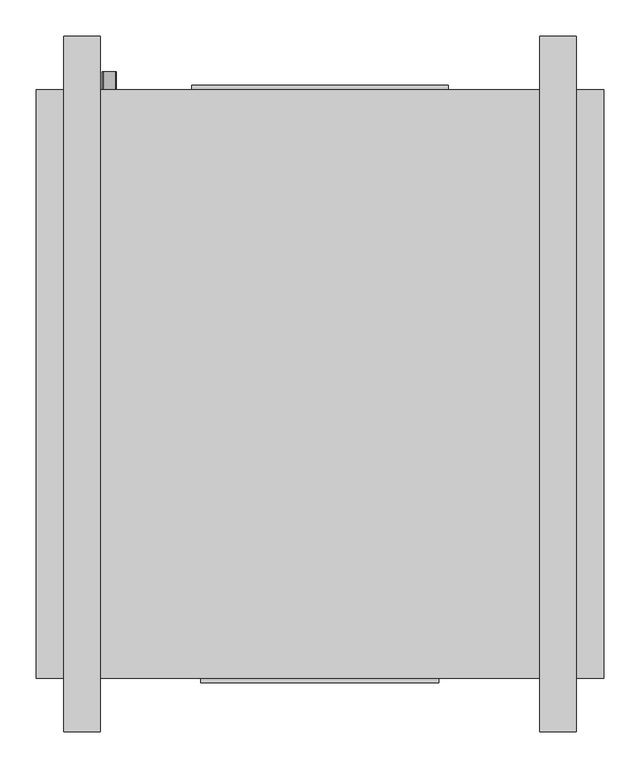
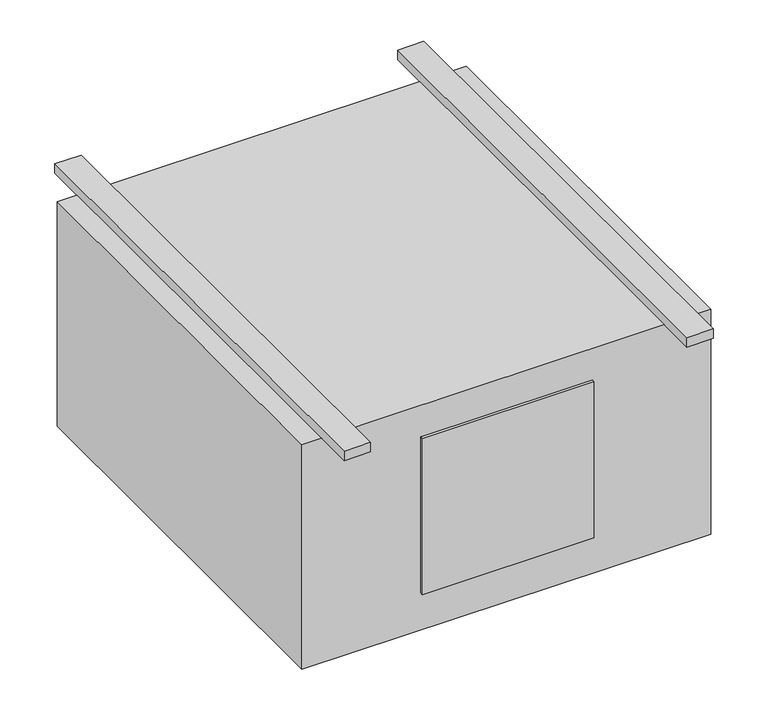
"""IFC4 building model written with IfcOpenShell, lengths in millimetres: proxy geometry, Exposed_High_Capacity_Horizontal_Cabinet_Fan_Coil_Unit_-_42DFA_-_CARRIER_-_4-Pipe_LH_2022 : Size 06 - 277v/60Hz/1Ph - 6/2 Coil."""

from ifc_helpers import new_model, si_unit, point, frame, frame_2d, origin, origin_with_axes, place, context, project, spatial, polyline, circle_curve, trimmed, segment, composite_curve, outline, extrude, source, transform, mapped, element, save


def mechanical_equipment_33559a50(model_context):
    return source(origin(), model_context, "Body", "SweptSolid", [
        extrude(outline(composite_curve([segment(trimmed(circle_curve(frame_2d((-406.4, -139.7)), 9.525), [point((-406.4, -149.225))], [point((-406.4, -130.175))], False, "CARTESIAN"), True, "CONTINUOUS"), segment(trimmed(circle_curve(frame_2d((-406.4, -139.7)), 9.525), [point((-406.4, -130.175))], [point((-406.4, -149.225))], False, "CARTESIAN"), True, "CONTINUOUS")], self_intersect=False)), frame((0.0, 169.8625, 0.0), z_axis=(0.0, 1.0, 0.0), x_axis=(0.0, 0.0, 1.0)), (0.0, 0.0, 1.0), 25.4),
        extrude(outline(composite_curve([segment(trimmed(circle_curve(frame_2d((-330.2, -139.7)), 7.9375), [point((-330.2, -147.6375))], [point((-330.2, -131.7625))], False, "CARTESIAN"), True, "CONTINUOUS"), segment(trimmed(circle_curve(frame_2d((-330.2, -139.7)), 7.9375), [point((-330.2, -131.7625))], [point((-330.2, -147.6375))], False, "CARTESIAN"), True, "CONTINUOUS")], self_intersect=False)), frame((0.0, 169.8625, 0.0), z_axis=(0.0, 1.0, 0.0), x_axis=(0.0, 0.0, 1.0)), (0.0, 0.0, 1.0), 25.4),
        extrude(outline(composite_curve([segment(trimmed(circle_curve(frame_2d((-254.0, -139.7)), 7.9375), [point((-254.0, -147.6375))], [point((-254.0, -131.7625))], False, "CARTESIAN"), True, "CONTINUOUS"), segment(trimmed(circle_curve(frame_2d((-254.0, -139.7)), 7.9375), [point((-254.0, -131.7625))], [point((-254.0, -147.6375))], False, "CARTESIAN"), True, "CONTINUOUS")], self_intersect=False)), frame((0.0, 169.8625, 0.0), z_axis=(0.0, 1.0, 0.0), x_axis=(0.0, 0.0, 1.0)), (0.0, 0.0, 1.0), 25.4),
        extrude(outline(composite_curve([segment(trimmed(circle_curve(frame_2d((-177.8, -139.7)), 7.9375), [point((-177.8, -147.6375))], [point((-177.8, -131.7625))], False, "CARTESIAN"), True, "CONTINUOUS"), segment(trimmed(circle_curve(frame_2d((-177.8, -139.7)), 7.9375), [point((-177.8, -131.7625))], [point((-177.8, -147.6375))], False, "CARTESIAN"), True, "CONTINUOUS")], self_intersect=False)), frame((0.0, 169.8625, 0.0), z_axis=(0.0, 1.0, 0.0), x_axis=(0.0, 0.0, 1.0)), (0.0, 0.0, 1.0), 25.4),
        extrude(outline(composite_curve([segment(trimmed(circle_curve(frame_2d((-101.6, -139.7)), 7.9375), [point((-101.6, -147.6375))], [point((-101.6, -131.7625))], False, "CARTESIAN"), True, "CONTINUOUS"), segment(trimmed(circle_curve(frame_2d((-101.6, -139.7)), 7.9375), [point((-101.6, -131.7625))], [point((-101.6, -147.6375))], False, "CARTESIAN"), True, "CONTINUOUS")], self_intersect=False)), frame((0.0, 169.8625, 0.0), z_axis=(0.0, 1.0, 0.0), x_axis=(0.0, 0.0, 1.0)), (0.0, 0.0, 1.0), 25.4),
        extrude(outline(polyline([(546.1, 169.8625), (546.1, -646.1125), (-241.3, -646.1125), (-241.3, 169.8625), (546.1, 169.8625)])), frame((0.0, 0.0, -457.2), z_axis=(0.0, 0.0, 1.0), x_axis=(1.0, 0.0, 0.0)), (0.0, 0.0, 1.0), 457.2),
        extrude(outline(polyline([(-25.4, 176.2125), (330.2, 176.2125), (330.2, 169.8625), (-25.4, 169.8625), (-25.4, 176.2125)])), frame((0.0, 0.0, -381.0), z_axis=(0.0, 0.0, 1.0), x_axis=(1.0, 0.0, 0.0)), (0.0, 0.0, 1.0), 355.6),
        extrude(outline(polyline([(-152.4, 244.475), (-152.4, -720.725), (-203.2, -720.725), (-203.2, 244.475), (-152.4, 244.475)])), origin_with_axes(), (0.0, 0.0, 1.0), 19.05),
        extrude(outline(polyline([(508.0, 244.475), (508.0, -720.725), (457.2, -720.725), (457.2, 244.475), (508.0, 244.475)])), origin_with_axes(), (0.0, 0.0, 1.0), 19.05),
        extrude(outline(polyline([(317.5, -652.4625), (-12.7, -652.4625), (-12.7, -646.1125), (317.5, -646.1125), (317.5, -652.4625)])), frame((0.0, 0.0, -381.0), z_axis=(0.0, 0.0, 1.0), x_axis=(1.0, 0.0, 0.0)), (0.0, 0.0, 1.0), 317.5),
    ])


if __name__ == "__main__":
    model = new_model("IFC4")
    model_context = context("Model", 3, world=origin())
    ifc_project = project(units=[si_unit("LENGTHUNIT", "METRE", prefix="MILLI")], contexts=[model_context])
    site = spatial("IfcSite", under=ifc_project)
    building = spatial("IfcBuilding", under=site)
    placement = place(None, origin())
    mechanical_equipment_shape = mechanical_equipment_33559a50(model_context)
    element("IfcBuildingElementProxy", 1, Name="Exposed_High_Capacity_Horizontal_Cabinet_Fan_Coil_Unit_-_42DFA_-_CARRIER_-_4-Pipe_LH_2022 : Size 06 - 277v/60Hz/1Ph - 6/2 Coil", ObjectType="Exposed_High_Capacity_Horizontal_Cabinet_Fan_Coil_Unit_-_42DFA_-_CARRIER_-_4-Pipe_LH_2022 : Size 06 - 277v/60Hz/1Ph - 6/2 Coil", at=placement, inside=building, context=model_context, shape_type="MappedRepresentation", body=[
        mapped(mechanical_equipment_shape, transform((0.0, 0.0, 0.0), x_axis=(1.0, 0.0, 0.0), y_axis=(0.0, 1.0, 0.0), z_axis=(0.0, 0.0, 1.0))),
    ])
    save(model, "model.ifc")
